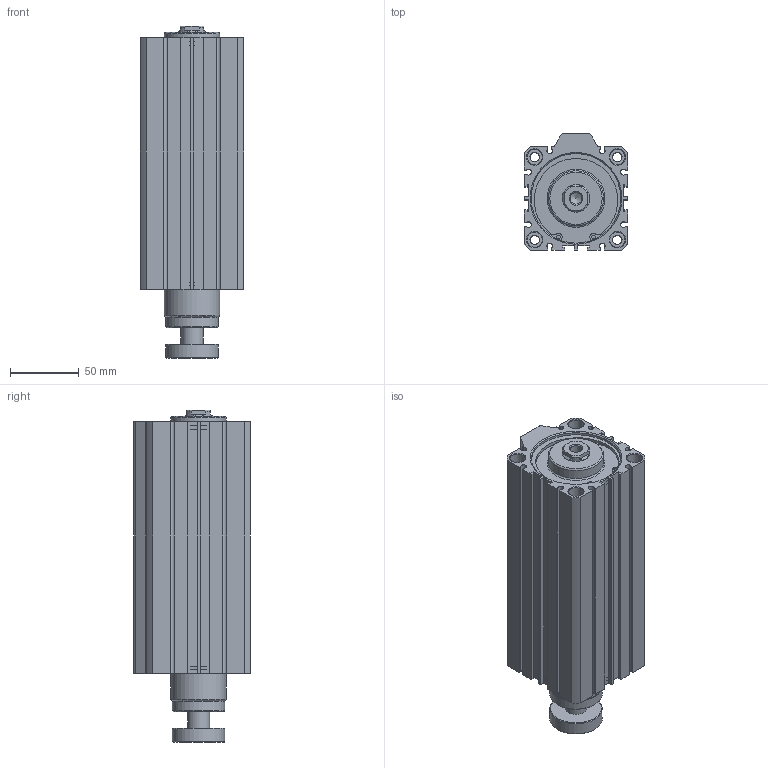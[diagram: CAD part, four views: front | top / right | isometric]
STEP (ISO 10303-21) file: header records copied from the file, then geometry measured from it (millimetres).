
FILE_DESCRIPTION((''),'2;1');
FILE_NAME('I:\3D電子目錄\氣缸\JDAR\JDAR-S\JDAR63-S\JDAR63x140-S.stp','2007-05-05T10:29:43',('662F206'),(''),'Autodesk Inventor 11','Autodesk Inventor 11','');
FILE_SCHEMA(('AUTOMOTIVE_DESIGN { 1 0 10303 214 1 1 1 1 }'));
Length unit declared in the file: millimetre
Products named in the file (3): JDAR63-S; R 形環 65
Assembly tree (3 placements, depth 2):
  JDAR63-S
    JDAR63-S
    R 形環 65  x2
Bounding box: 75 x 84.5 x 240.8 mm (x, y, z)
Volume: 1012144.2 mm3; surface area: 125226.6 mm2
Topology: 3 solids, 3 shells, 197 faces, 484 edges, 317 vertices
Faces by surface type: plane 110, cylinder 58, cone 23, bspline 4, torus 2
Full cylindrical faces by diameter (mm): 2.7 x4, 3 x2, 6.8 x4, 11 x8, 16 x1, 20 x1, 38 x2, 40 x2, 65 x4, 68 x2
Entity records: 5335 total; most frequent: CARTESIAN_POINT 1013, DIRECTION 898, ORIENTED_EDGE 788, EDGE_CURVE 394, AXIS2_PLACEMENT_3D 325, VERTEX_POINT 290, EDGE_LOOP 274, VECTOR 248
